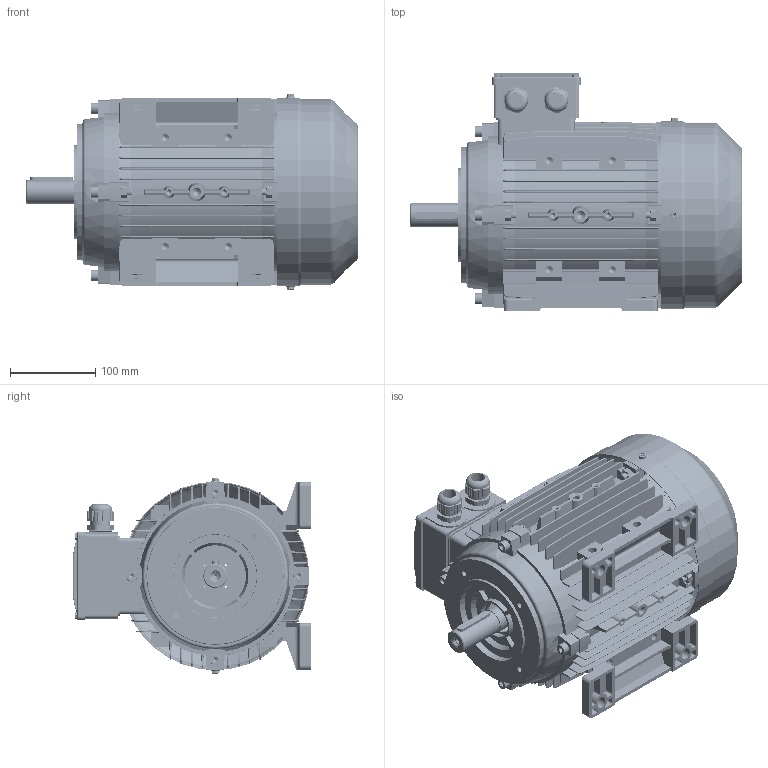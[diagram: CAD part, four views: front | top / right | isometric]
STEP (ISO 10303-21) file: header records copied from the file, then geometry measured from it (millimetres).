
FILE_DESCRIPTION (( 'STEP AP203' ), '1' );
FILE_NAME ('MSL112M assembly B34.STEP', '2017-11-26T10:04:15', ( 'user' ), ( 'china' ), 'SwSTEP 2.0', 'SolidWorks 2016', '' );
FILE_SCHEMA (( 'CONFIG_CONTROL_DESIGN' ));
Length unit declared in the file: millimetre
Products named in the file (17): M25 cable gland; GB-T 29.2-1988 M5鞠褒坋趼湍菜_10; M112菁褐; M112-132諉盄碟(苤); M112儂褲; MS112 綴裔瑞欶郪磁_95; GB-T 70.1-2000 M8_40; MS132諉盄碟釱(苤)_2Holes; GB-T 41-2000 M8; GB-T 29.2-1988 M4鞠褒坋趼湍菜_05; M112傷裔B14 ; M112瑞欶_95; MS132諉盄碟裔(苤); M112-Shaft drive end; MSL112M assembly B34; M112傷裔B3_Post; GB-T 5780-2000 M8_040
Assembly tree (36 placements, depth 3):
  MSL112M assembly B34
    M112儂褲
    M112-Shaft drive end
    MS112 綴裔瑞欶郪磁_95
      M112傷裔B3_Post
      M112瑞欶_95
      GB-T 29.2-1988 M5鞠褒坋趼湍菜_10  x3
    M112-132諉盄碟(苤)
      MS132諉盄碟釱(苤)_2Holes
      MS132諉盄碟裔(苤)
      GB-T 29.2-1988 M4鞠褒坋趼湍菜_05  x4
      M25 cable gland  x2
    M112菁褐  x2
    GB-T 41-2000 M8  x8
    GB-T 70.1-2000 M8_40  x4
    GB-T 5780-2000 M8_040  x4
    M112傷裔B14 
Bounding box: 389 x 278.5 x 228.7 mm (x, y, z)
Volume: 2046330.5 mm3; surface area: 1140958.1 mm2
Topology: 36 solids, 36 shells, 5542 faces, 14248 edges, 8812 vertices
Faces by surface type: plane 2248, cylinder 1519, cone 1096, bspline 444, torus 137, sphere 98
Entity records: 136608 total; most frequent: CARTESIAN_POINT 45286, ORIENTED_EDGE 19344, DIRECTION 17436, EDGE_CURVE 9672, VERTEX_POINT 6096, AXIS2_PLACEMENT_3D 6016, LINE 5404, VECTOR 5404
